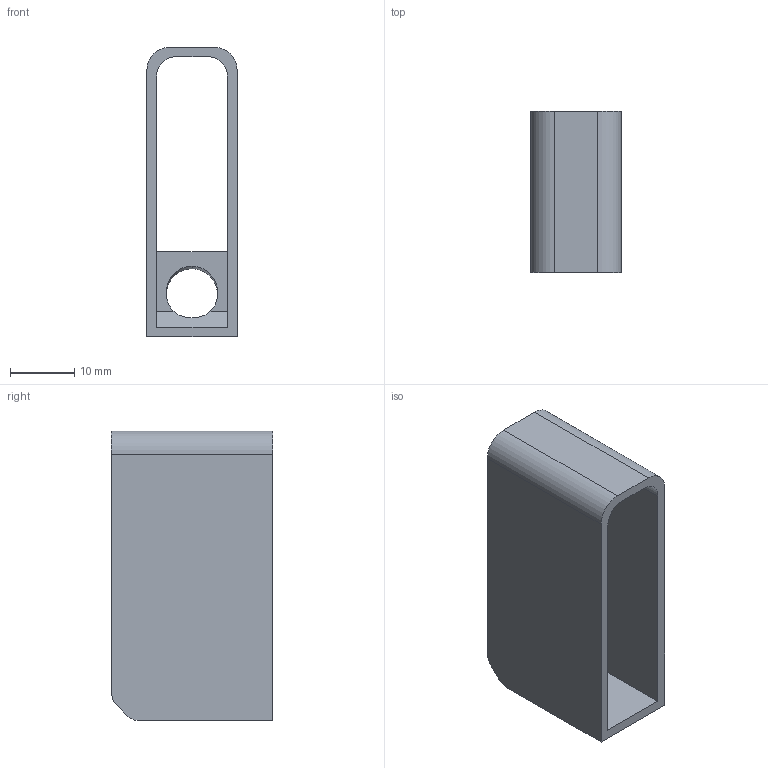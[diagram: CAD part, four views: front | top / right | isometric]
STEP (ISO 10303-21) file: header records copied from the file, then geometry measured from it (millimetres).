
FILE_DESCRIPTION (( 'STEP AP214' ), '1' );
FILE_NAME ('Abdeckkappe_K615100300.STEP', '2010-10-06T11:56:10', ( 'grass' ), ( '' ), 'SwSTEP 2.0', 'SolidWorks 2010', '' );
FILE_SCHEMA (( 'AUTOMOTIVE_DESIGN' ));
Length unit declared in the file: millimetre
Products named in the file (1): Abdeckkappe_K615100300
Bounding box: 14 x 25 x 45 mm (x, y, z)
Volume: 4224.2 mm3; surface area: 5885.6 mm2
Topology: 1 solids, 1 shells, 22 faces, 66 edges, 44 vertices
Faces by surface type: plane 14, cylinder 8
Entity records: 804 total; most frequent: CARTESIAN_POINT 175, ORIENTED_EDGE 132, DIRECTION 116, EDGE_CURVE 66, LINE 46, VECTOR 46, VERTEX_POINT 44, AXIS2_PLACEMENT_3D 35
